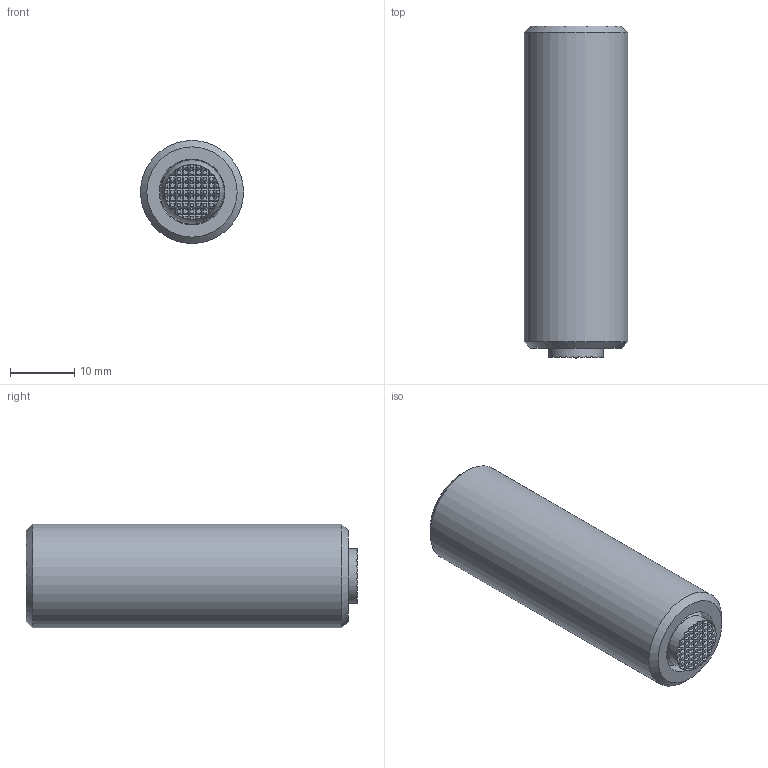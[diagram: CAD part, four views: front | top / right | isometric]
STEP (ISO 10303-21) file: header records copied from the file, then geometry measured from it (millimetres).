
FILE_DESCRIPTION( ( 'STEP AP203' ), '1' );
FILE_NAME( 'C:/Temp/Ganter_Step_05_03_2020/data/3_2/gn_709_8/gn_709_8r/Clamping pad GN 709.8-M16-50-R (0).stp', '2020-03-13T05:38:04', ( 'License CC BY-ND 4.0' ), ( 'CADENAS' ), ' ', 'PARTsolutions', ' ' );
FILE_SCHEMA( ( 'CONFIG_CONTROL_DESIGN' ) );
Length unit declared in the file: millimetre
Products named in the file (3): Clamping pad GN 709.8-M16-50-R (0); _Pendelelement GN 709.8-M16-50-R-1; _Pendelelement GN 709.8-M16-50-R-2
Assembly tree (2 placements, depth 2):
  Clamping pad GN 709.8-M16-50-R (0)
    _Pendelelement GN 709.8-M16-50-R-1
    _Pendelelement GN 709.8-M16-50-R-2
Bounding box: 16 x 51.5 x 16 mm (x, y, z)
Volume: 9584 mm3; surface area: 3618.4 mm2
Topology: 2 solids, 2 shells, 326 faces, 699 edges, 378 vertices
Faces by surface type: plane 319, cone 3, cylinder 3, sphere 1
Full cylindrical faces by diameter (mm): 8.5 x1, 10.18 x1, 16 x1
Entity records: 8426 total; most frequent: DIRECTION 1444, CARTESIAN_POINT 1396, ORIENTED_EDGE 1380, EDGE_CURVE 690, LINE 594, VECTOR 594, AXIS2_PLACEMENT_3D 425, VERTEX_POINT 377
